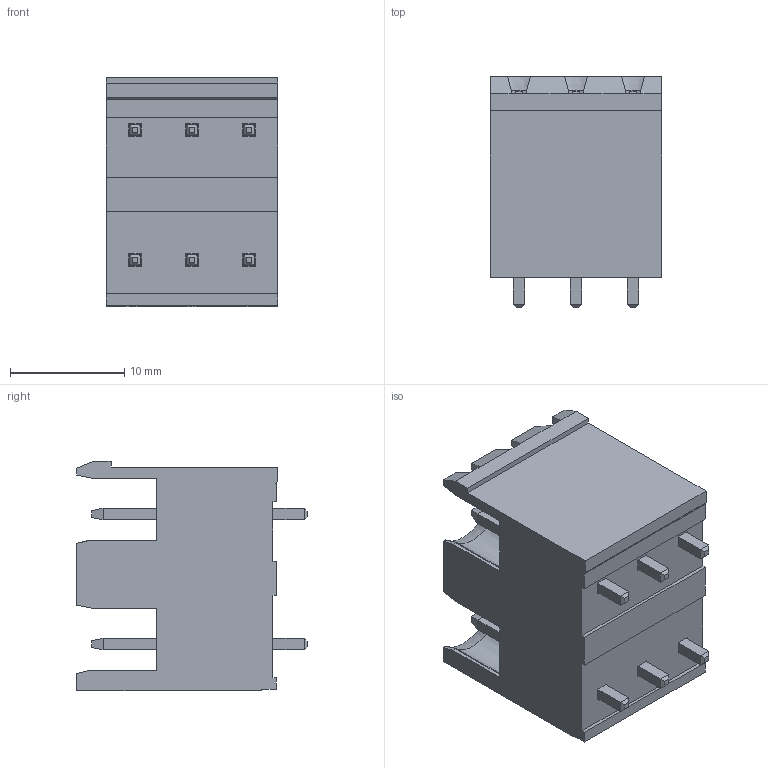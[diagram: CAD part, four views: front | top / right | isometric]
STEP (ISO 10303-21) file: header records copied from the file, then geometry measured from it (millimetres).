
FILE_DESCRIPTION((''),'2;1');
FILE_NAME('33','2019-04-12T',('zhenbing.lai'),(''),'CREO PARAMETRIC BY PTC INC, 2016260','CREO PARAMETRIC BY PTC INC, 2016260','');
FILE_SCHEMA(('CONFIG_CONTROL_DESIGN'));
Length unit declared in the file: millimetre
Products named in the file (1): 33
Bounding box: 15 x 20.2 x 20.1 mm (x, y, z)
Volume: 3539.9 mm3; surface area: 2703.1 mm2
Topology: 1 solids, 1 shells, 378 faces, 972 edges, 614 vertices
Faces by surface type: plane 332, cylinder 34, cone 12
Entity records: 11448 total; most frequent: CARTESIAN_POINT 2306, ORIENTED_EDGE 1944, DIRECTION 1758, EDGE_CURVE 972, VECTOR 818, LINE 818, VERTEX_POINT 614, AXIS2_PLACEMENT_3D 470
